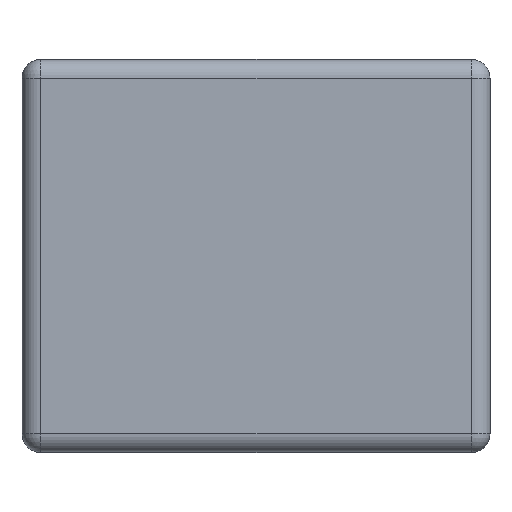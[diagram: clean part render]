
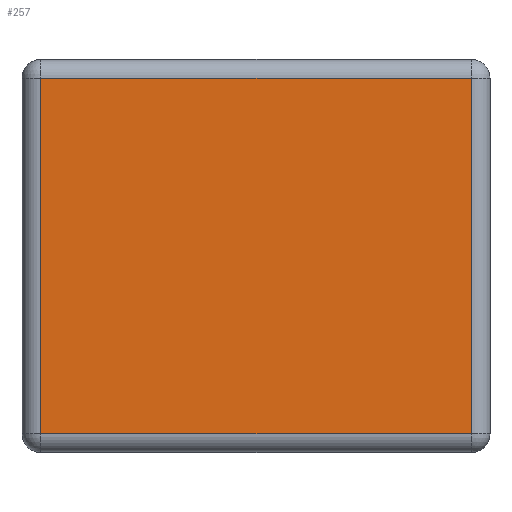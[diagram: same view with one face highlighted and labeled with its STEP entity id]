
A CAD part, left-side view. The second image highlights one B-rep face of the part: STEP entity #257.
In plain terms, the highlighted planar face has unit normal (-1, 0, 0).
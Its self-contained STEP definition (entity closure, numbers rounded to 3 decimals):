
#17 = CARTESIAN_POINT ( 'NONE',  ( -1., -0.575, 1. ) ) ;
#18 = VERTEX_POINT ( 'NONE', #17 ) ;
#26 = CARTESIAN_POINT ( 'NONE',  ( -1., -0.575, 0.05 ) ) ;
#27 = VERTEX_POINT ( 'NONE', #26 ) ;
#28 = CARTESIAN_POINT ( 'NONE',  ( -1., -0.575, 1.05 ) ) ;
#29 = DIRECTION ( 'NONE',  ( 0., 0., 1. ) ) ;
#30 = VECTOR ( 'NONE', #29, 1000. ) ;
#31 = LINE ( 'NONE', #28, #30 ) ;
#32 = EDGE_CURVE ( 'NONE', #27, #18, #31, .T. ) ;
#57 = CARTESIAN_POINT ( 'NONE',  ( -1., 0.575, 1. ) ) ;
#58 = VERTEX_POINT ( 'NONE', #57 ) ;
#76 = CARTESIAN_POINT ( 'NONE',  ( -1., 0.575, 0.05 ) ) ;
#77 = VERTEX_POINT ( 'NONE', #76 ) ;
#85 = CARTESIAN_POINT ( 'NONE',  ( -1., 0.575, 0. ) ) ;
#86 = DIRECTION ( 'NONE',  ( 0., 0., -1. ) ) ;
#87 = VECTOR ( 'NONE', #86, 1000. ) ;
#88 = LINE ( 'NONE', #85, #87 ) ;
#89 = EDGE_CURVE ( 'NONE', #58, #77, #88, .T. ) ;
#179 = CARTESIAN_POINT ( 'NONE',  ( -1., 0.625, 1. ) ) ;
#180 = DIRECTION ( 'NONE',  ( 0., 1., 0. ) ) ;
#181 = VECTOR ( 'NONE', #180, 1000. ) ;
#182 = LINE ( 'NONE', #179, #181 ) ;
#183 = EDGE_CURVE ( 'NONE', #18, #58, #182, .T. ) ;
#241 = ORIENTED_EDGE ( 'NONE', *, *, #183, .T. ) ;
#242 = ORIENTED_EDGE ( 'NONE', *, *, #89, .T. ) ;
#243 = CARTESIAN_POINT ( 'NONE',  ( -1., -0.625, 0.05 ) ) ;
#244 = DIRECTION ( 'NONE',  ( 0., -1., 0. ) ) ;
#245 = VECTOR ( 'NONE', #244, 1000. ) ;
#246 = LINE ( 'NONE', #243, #245 ) ;
#247 = EDGE_CURVE ( 'NONE', #77, #27, #246, .T. ) ;
#248 = ORIENTED_EDGE ( 'NONE', *, *, #247, .T. ) ;
#249 = ORIENTED_EDGE ( 'NONE', *, *, #32, .T. ) ;
#250 = EDGE_LOOP ( 'NONE', ( #241, #242, #248, #249 ) ) ;
#251 = FACE_OUTER_BOUND ( 'NONE', #250, .T. ) ;
#252 = CARTESIAN_POINT ( 'NONE',  ( -1., 0., 0. ) ) ;
#253 = DIRECTION ( 'NONE',  ( -1., 0., 0. ) ) ;
#254 = DIRECTION ( 'NONE',  ( 0., -1., 0. ) ) ;
#255 = AXIS2_PLACEMENT_3D ( 'NONE', #252, #253, #254 ) ;
#256 = PLANE ( 'NONE', #255 ) ;
#257 = ADVANCED_FACE ( 'NONE', ( #251 ), #256, .T. ) ;
